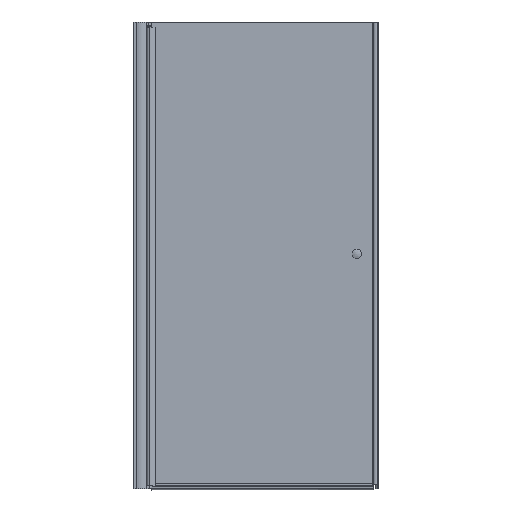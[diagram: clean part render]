
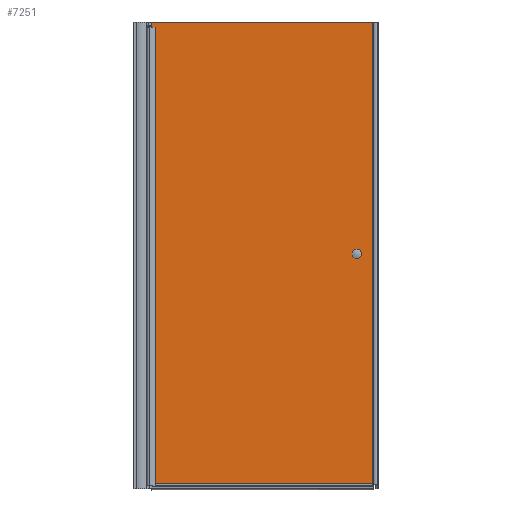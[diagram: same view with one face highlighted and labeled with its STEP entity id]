
A CAD part, front view. The second image highlights one B-rep face of the part: STEP entity #7251.
In plain terms, the highlighted planar face has unit normal (0, -1, 0).
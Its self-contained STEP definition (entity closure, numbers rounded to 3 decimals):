
#129=FACE_BOUND($,#1083,.T.);
#367=PLANE($,#7900);
#696=FACE_OUTER_BOUND($,#1082,.T.);
#1082=EDGE_LOOP($,(#6328,#6329,#6330,#6331,#6332,#6333));
#1083=EDGE_LOOP($,(#6334));
#1406=CIRCLE($,#7901,15.);
#1633=LINE($,#10696,#2288);
#1807=LINE($,#11244,#2462);
#1831=LINE($,#11344,#2486);
#1894=LINE($,#11534,#2549);
#2085=LINE($,#12055,#2740);
#2089=LINE($,#12063,#2744);
#2288=VECTOR($,#8564,14.774);
#2462=VECTOR($,#9004,900.4);
#2486=VECTOR($,#9076,1877.038);
#2549=VECTOR($,#9241,885.626);
#2740=VECTOR($,#9826,1856.038);
#2744=VECTOR($,#9838,21.);
#2975=VERTEX_POINT($,#10693);
#2976=VERTEX_POINT($,#10695);
#3172=VERTEX_POINT($,#11241);
#3173=VERTEX_POINT($,#11243);
#3203=VERTEX_POINT($,#11341);
#3254=VERTEX_POINT($,#11533);
#3388=VERTEX_POINT($,#12064);
#3736=EDGE_CURVE($,#2976,#2975,#1633,.T.);
#3993=EDGE_CURVE($,#3172,#3173,#1807,.T.);
#4033=EDGE_CURVE($,#3203,#3173,#1831,.T.);
#4119=EDGE_CURVE($,#3254,#3203,#1894,.T.);
#4380=EDGE_CURVE($,#3254,#2975,#2085,.T.);
#4384=EDGE_CURVE($,#2976,#3172,#2089,.T.);
#4385=EDGE_CURVE($,#3388,#3388,#1406,.T.);
#6328=ORIENTED_EDGE($,*,*,#4033,.T.);
#6329=ORIENTED_EDGE($,*,*,#3993,.F.);
#6330=ORIENTED_EDGE($,*,*,#4384,.F.);
#6331=ORIENTED_EDGE($,*,*,#3736,.T.);
#6332=ORIENTED_EDGE($,*,*,#4380,.F.);
#6333=ORIENTED_EDGE($,*,*,#4119,.T.);
#6334=ORIENTED_EDGE($,*,*,#4385,.T.);
#7251=ADVANCED_FACE($,(#696,#129),#367,.T.);
#7900=AXIS2_PLACEMENT_3D($,#12062,#9836,#9837);
#7901=AXIS2_PLACEMENT_3D($,#12065,#9839,#9840);
#8564=DIRECTION($,(1.,0.,0.));
#9004=DIRECTION($,(1.,0.,0.));
#9076=DIRECTION($,(0.,0.,1.));
#9241=DIRECTION($,(1.,0.,0.));
#9826=DIRECTION($,(0.,0.,1.));
#9836=DIRECTION('center_axis',(0.,-1.,0.));
#9837=DIRECTION('ref_axis',(1.,0.,0.));
#9838=DIRECTION($,(0.,0.,1.));
#9839=DIRECTION('center_axis',(0.,1.,0.));
#9840=DIRECTION('ref_axis',(0.165,0.,-0.986));
#10693=CARTESIAN_POINT('',(672.459,11.606,1363.944));
#10695=CARTESIAN_POINT('',(657.686,11.606,1363.944));
#10696=CARTESIAN_POINT($,(656.472,11.606,1363.944));
#11241=CARTESIAN_POINT('',(657.686,11.606,1384.944));
#11243=CARTESIAN_POINT('',(1558.086,11.606,1384.944));
#11244=CARTESIAN_POINT($,(657.686,11.606,1384.944));
#11341=CARTESIAN_POINT('',(1558.086,11.606,-492.093));
#11344=CARTESIAN_POINT($,(1558.086,11.606,-495.056));
#11533=CARTESIAN_POINT('',(672.459,11.606,-492.093));
#11534=CARTESIAN_POINT($,(657.686,11.606,-492.093));
#12055=CARTESIAN_POINT($,(672.459,11.606,-501.056));
#12062=CARTESIAN_POINT('Origin',(657.686,11.606,-502.056));
#12063=CARTESIAN_POINT($,(657.686,11.606,-502.056));
#12064=CARTESIAN_POINT('',(1495.16,11.606,426.65));
#12065=CARTESIAN_POINT('Origin',(1492.686,11.606,441.444));
